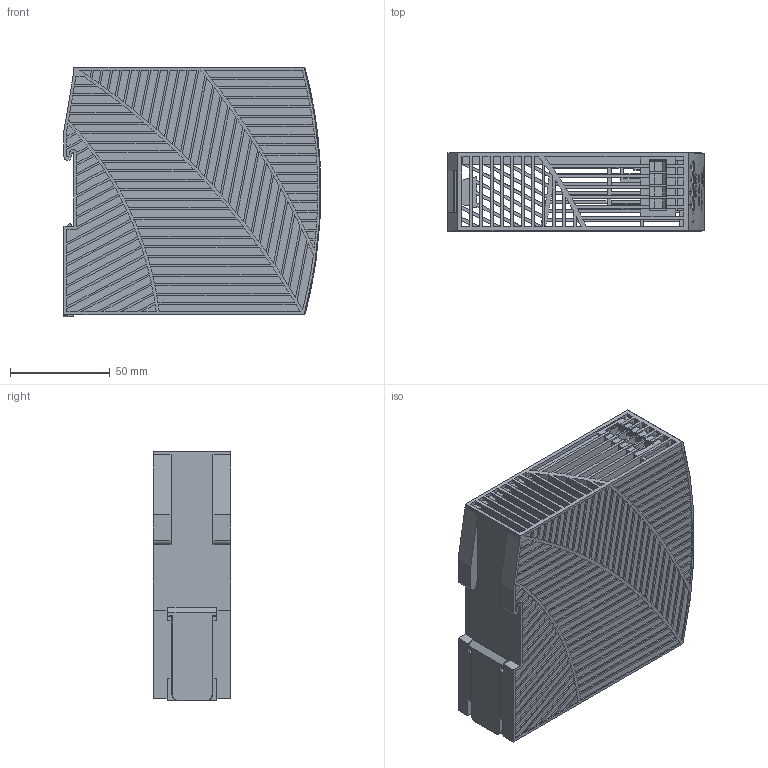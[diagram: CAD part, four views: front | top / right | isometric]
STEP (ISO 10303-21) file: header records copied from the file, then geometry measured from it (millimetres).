
FILE_DESCRIPTION((''),'2;1');
FILE_NAME('C:\Users\rahns\Desktop\Marketing\23.04.14\md3_pic120_241c.stp','2014-06-13T11:52:17',('rahns'),(''),'Autodesk Inventor 2009','Autodesk Inventor 2009','');
FILE_SCHEMA(('AUTOMOTIVE_DESIGN { 1 0 10303 214 1 1 1 1 }'));
Length unit declared in the file: millimetre
Products named in the file (9): 411; HOUSING BODY 411; HOUSING COVER 411; SLIDER 411; FRONTFOIL 411; LED GN; POTENTIOMETER; XT-LP4BK_L-DS; XT-LP3BK-R-D2 
Assembly tree (8 placements, depth 2):
  411
    HOUSING BODY 411
    HOUSING COVER 411
    SLIDER 411
    FRONTFOIL 411
    LED GN
    POTENTIOMETER
    XT-LP4BK_L-DS
    XT-LP3BK-R-D2 
Bounding box: 128.66 x 39 x 125 mm (x, y, z)
Volume: 104083.3 mm3; surface area: 125726.1 mm2
Topology: 8 solids, 8 shells, 1805 faces, 4993 edges, 3317 vertices
Faces by surface type: plane 1260, cylinder 321, bspline 214, sphere 6, torus 4
Full cylindrical faces by diameter (mm): 0.2 x1, 0.5 x3, 2.7 x1, 3.2 x1, 3.4 x1, 3.8 x1, 4.5 x1, 4.6 x1, 5 x14, 5.15 x3, 5.2 x1
Entity records: 63907 total; most frequent: CARTESIAN_POINT 17436, ORIENTED_EDGE 9894, DIRECTION 8527, EDGE_CURVE 4947, VECTOR 3625, LINE 3625, VERTEX_POINT 3300, AXIS2_PLACEMENT_3D 2451
